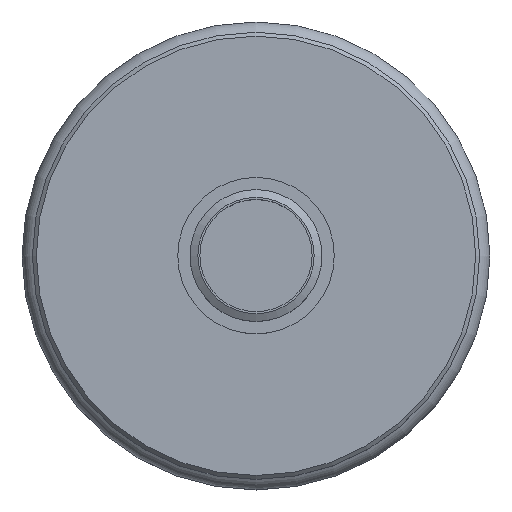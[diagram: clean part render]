
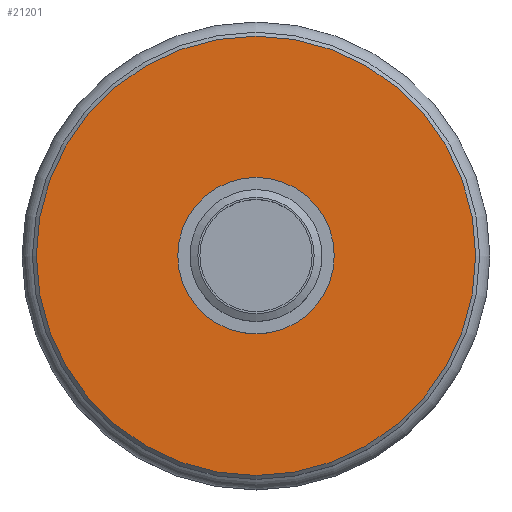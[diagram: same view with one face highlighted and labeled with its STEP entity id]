
A CAD part, top view. The second image highlights one B-rep face of the part: STEP entity #21201.
In plain terms, the highlighted planar face has unit normal (0, 0, 1).
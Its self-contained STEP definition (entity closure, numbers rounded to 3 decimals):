
#507=PLANE('',#22165);
#897=CIRCLE('',#22120,19.);
#919=CIRCLE('',#22164,56.15);
#1039=FACE_BOUND('',#7128,.T.);
#5848=FACE_OUTER_BOUND('',#7127,.T.);
#7127=EDGE_LOOP('',(#19928));
#7128=EDGE_LOOP('',(#19929));
#10447=VERTEX_POINT('',#49450);
#10469=VERTEX_POINT('',#49516);
#13602=EDGE_CURVE('',#10447,#10447,#897,.T.);
#13624=EDGE_CURVE('',#10469,#10469,#919,.T.);
#19928=ORIENTED_EDGE('',*,*,#13624,.T.);
#19929=ORIENTED_EDGE('',*,*,#13602,.F.);
#21201=ADVANCED_FACE('',(#5848,#1039),#507,.T.);
#22120=AXIS2_PLACEMENT_3D('',#49451,#25517,#25518);
#22164=AXIS2_PLACEMENT_3D('',#49517,#25605,#25606);
#22165=AXIS2_PLACEMENT_3D('',#49518,#25607,#25608);
#25517=DIRECTION('center_axis',(0.,0.,1.));
#25518=DIRECTION('ref_axis',(1.,0.,0.));
#25605=DIRECTION('center_axis',(0.,0.,
1.));
#25606=DIRECTION('ref_axis',(1.,0.,0.));
#25607=DIRECTION('center_axis',(0.,0.,
1.));
#25608=DIRECTION('ref_axis',(0.,1.,0.));
#49450=CARTESIAN_POINT('',(-19.,0.,205.5));
#49451=CARTESIAN_POINT('Origin',(0.,0.,
205.5));
#49516=CARTESIAN_POINT('',(56.15,0.,205.5));
#49517=CARTESIAN_POINT('Origin',(0.,0.,
205.5));
#49518=CARTESIAN_POINT('Origin',(41.15,0.,205.5));
